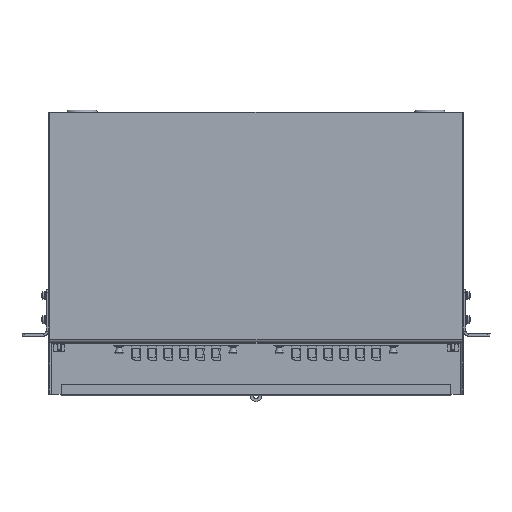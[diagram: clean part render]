
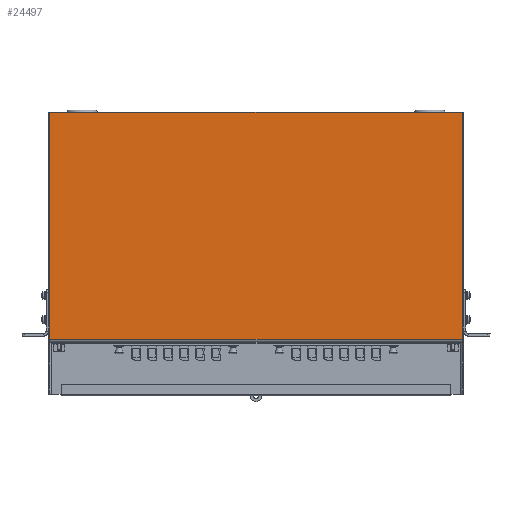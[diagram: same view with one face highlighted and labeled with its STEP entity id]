
A CAD part, top view. The second image highlights one B-rep face of the part: STEP entity #24497.
In plain terms, the highlighted planar face has unit normal (0, 0, 1).
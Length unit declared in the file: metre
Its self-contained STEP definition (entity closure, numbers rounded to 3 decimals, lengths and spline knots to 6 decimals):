
#1888=LINE('',#39056,#4206);
#1891=LINE('',#39062,#4209);
#1894=LINE('',#39068,#4212);
#1898=LINE('',#39076,#4216);
#4206=VECTOR('',#30942,1.);
#4209=VECTOR('',#30947,1.);
#4212=VECTOR('',#30952,1.);
#4216=VECTOR('',#30960,1.);
#7783=ORIENTED_EDGE('',*,*,#13945,.T.);
#7784=ORIENTED_EDGE('',*,*,#13942,.F.);
#7785=ORIENTED_EDGE('',*,*,#13952,.F.);
#7786=ORIENTED_EDGE('',*,*,#13948,.T.);
#13942=EDGE_CURVE('',#17180,#17182,#1888,.T.);
#13945=EDGE_CURVE('',#17184,#17182,#1891,.T.);
#13948=EDGE_CURVE('',#17186,#17184,#1894,.T.);
#13952=EDGE_CURVE('',#17186,#17180,#1898,.T.);
#17180=VERTEX_POINT('',#39054);
#17182=VERTEX_POINT('',#39057);
#17184=VERTEX_POINT('',#39063);
#17186=VERTEX_POINT('',#39069);
#20344=EDGE_LOOP('',(#7783,#7784,#7785,#7786));
#22021=FACE_BOUND('',#20344,.T.);
#23583=PLANE('',#27262);
#24497=ADVANCED_FACE('',(#22021),#23583,.F.);
#27262=AXIS2_PLACEMENT_3D('',#39075,#30958,#30959);
#30942=DIRECTION('',(0.,1.,0.));
#30947=DIRECTION('',(-1.,0.,0.));
#30952=DIRECTION('',(0.,1.,0.));
#30958=DIRECTION('',(0.,0.,-1.));
#30959=DIRECTION('',(-1.,0.,0.));
#30960=DIRECTION('',(-1.,0.,0.));
#39054=CARTESIAN_POINT('',(-0.2135,0.0585,0.042));
#39056=CARTESIAN_POINT('',(-0.2135,0.057,0.042));
#39057=CARTESIAN_POINT('',(-0.2135,0.294,0.042));
#39062=CARTESIAN_POINT('',(0.,0.294,0.042));
#39063=CARTESIAN_POINT('',(0.2135,0.294,0.042));
#39068=CARTESIAN_POINT('',(0.2135,0.057,0.042));
#39069=CARTESIAN_POINT('',(0.2135,0.0585,0.042));
#39075=CARTESIAN_POINT('',(0.,0.057,0.042));
#39076=CARTESIAN_POINT('',(0.,0.0585,0.042));
